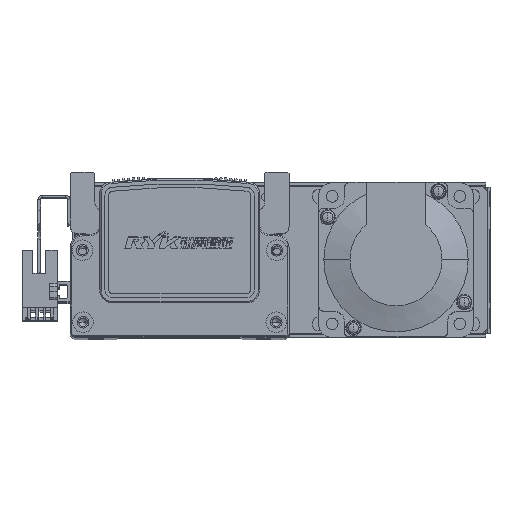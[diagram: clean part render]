
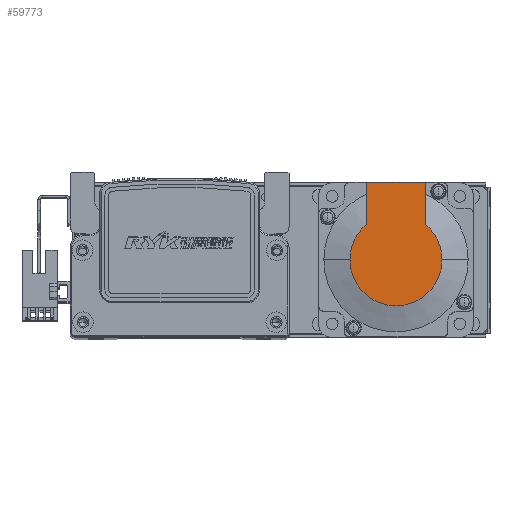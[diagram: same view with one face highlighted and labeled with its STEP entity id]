
A CAD part, top view. The second image highlights one B-rep face of the part: STEP entity #59773.
In plain terms, the highlighted planar face has unit normal (0, 0, 1) as drawn and (-1, 0, 0) by its records, which use the part's own axes.
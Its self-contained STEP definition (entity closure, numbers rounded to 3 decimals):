
#5699 = CARTESIAN_POINT ( 'NONE',  ( -99., 13.735, -11.45 ) ) ;
#8311 = VERTEX_POINT ( 'NONE', #5699 ) ;
#17881 = DIRECTION ( 'NONE',  ( 0., 0., -1. ) ) ;
#17902 = DIRECTION ( 'NONE',  ( -1., 0., 0. ) ) ;
#17906 = CARTESIAN_POINT ( 'NONE',  ( -99., 0., 0. ) ) ;
#18082 = CARTESIAN_POINT ( 'NONE',  ( -99., 0., 17.881 ) ) ;
#18088 = CARTESIAN_POINT ( 'NONE',  ( -99., 13.735, 11.45 ) ) ;
#18125 = CARTESIAN_POINT ( 'NONE',  ( -99., 0., -17.881 ) ) ;
#19733 = ORIENTED_EDGE ( 'NONE', *, *, #45519, .T. ) ;
#19748 = ORIENTED_EDGE ( 'NONE', *, *, #46014, .T. ) ;
#19757 = ORIENTED_EDGE ( 'NONE', *, *, #46267, .F. ) ;
#19760 = ORIENTED_EDGE ( 'NONE', *, *, #46320, .F. ) ;
#19771 = ORIENTED_EDGE ( 'NONE', *, *, #45463, .T. ) ;
#19781 = ORIENTED_EDGE ( 'NONE', *, *, #46316, .T. ) ;
#24283 = CARTESIAN_POINT ( 'NONE',  ( -99., 0., 0. ) ) ;
#24314 = DIRECTION ( 'NONE',  ( 0., 0., -1. ) ) ;
#24351 = DIRECTION ( 'NONE',  ( -1., 0., 0. ) ) ;
#25164 = CARTESIAN_POINT ( 'NONE',  ( -99., 0., 0. ) ) ;
#25170 = DIRECTION ( 'NONE',  ( 0., 0., -1. ) ) ;
#25196 = DIRECTION ( 'NONE',  ( -1., 0., 0. ) ) ;
#26648 = CARTESIAN_POINT ( 'NONE',  ( -99., 0., 11.45 ) ) ;
#26676 = DIRECTION ( 'NONE',  ( 0., -1., 0. ) ) ;
#26736 = CARTESIAN_POINT ( 'NONE',  ( -99., -8.941, -11.45 ) ) ;
#26737 = DIRECTION ( 'NONE',  ( 0., -1., 0. ) ) ;
#26738 = DIRECTION ( 'NONE',  ( 0., 0., 1. ) ) ;
#26760 = CARTESIAN_POINT ( 'NONE',  ( -99., 30., 25. ) ) ;
#28284 = CIRCLE ( 'NONE', #30087, 17.881 ) ;
#28690 = LINE ( 'NONE', #26648, #28742 ) ;
#28742 = VECTOR ( 'NONE', #26676, 1000. ) ;
#28752 = LINE ( 'NONE', #26736, #28756 ) ;
#28756 = VECTOR ( 'NONE', #26737, 1000. ) ;
#28800 = VECTOR ( 'NONE', #26738, 1000. ) ;
#28846 = LINE ( 'NONE', #26760, #28800 ) ;
#29999 = AXIS2_PLACEMENT_3D ( 'NONE', #17906, #17902, #17881 ) ;
#30026 = AXIS2_PLACEMENT_3D ( 'NONE', #24283, #24351, #24314 ) ;
#30087 = AXIS2_PLACEMENT_3D ( 'NONE', #25164, #25196, #25170 ) ;
#32979 = CARTESIAN_POINT ( 'NONE',  ( -99., 30., -11.45 ) ) ;
#32991 = CARTESIAN_POINT ( 'NONE',  ( -99., 30., 11.45 ) ) ;
#34460 = VERTEX_POINT ( 'NONE', #32979 ) ;
#34486 = VERTEX_POINT ( 'NONE', #32991 ) ;
#37811 = CIRCLE ( 'NONE', #30026, 17.881 ) ;
#37862 = CIRCLE ( 'NONE', #29999, 17.881 ) ;
#40370 = DIRECTION ( 'NONE',  ( -1., 0., 0. ) ) ;
#40371 = DIRECTION ( 'NONE',  ( 0., 0., 1. ) ) ;
#40428 = CARTESIAN_POINT ( 'NONE',  ( -99., -8.941, 0. ) ) ;
#40439 = PLANE ( 'NONE',  #41406 ) ;
#41406 = AXIS2_PLACEMENT_3D ( 'NONE', #40428, #40370, #40371 ) ;
#45463 = EDGE_CURVE ( 'NONE', #47282, #47318, #37862, .T. ) ;
#45519 = EDGE_CURVE ( 'NONE', #47318, #47321, #37811, .T. ) ;
#46014 = EDGE_CURVE ( 'NONE', #8311, #47282, #28284, .T. ) ;
#46267 = EDGE_CURVE ( 'NONE', #34486, #47321, #28690, .T. ) ;
#46316 = EDGE_CURVE ( 'NONE', #34460, #8311, #28752, .T. ) ;
#46320 = EDGE_CURVE ( 'NONE', #34460, #34486, #28846, .T. ) ;
#47282 = VERTEX_POINT ( 'NONE', #18125 ) ;
#47318 = VERTEX_POINT ( 'NONE', #18082 ) ;
#47321 = VERTEX_POINT ( 'NONE', #18088 ) ;
#57018 = EDGE_LOOP ( 'NONE', ( #19781, #19748, #19771, #19733, #19757, #19760 ) ) ;
#59773 = ADVANCED_FACE ( 'NONE', ( #60475 ), #40439, .T. ) ;
#60475 = FACE_OUTER_BOUND ( 'NONE', #57018, .T. ) ;
